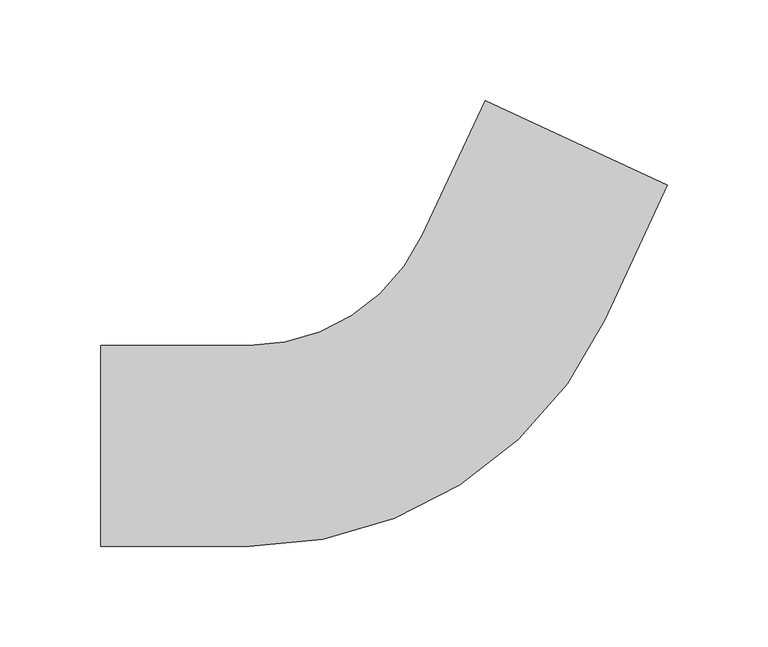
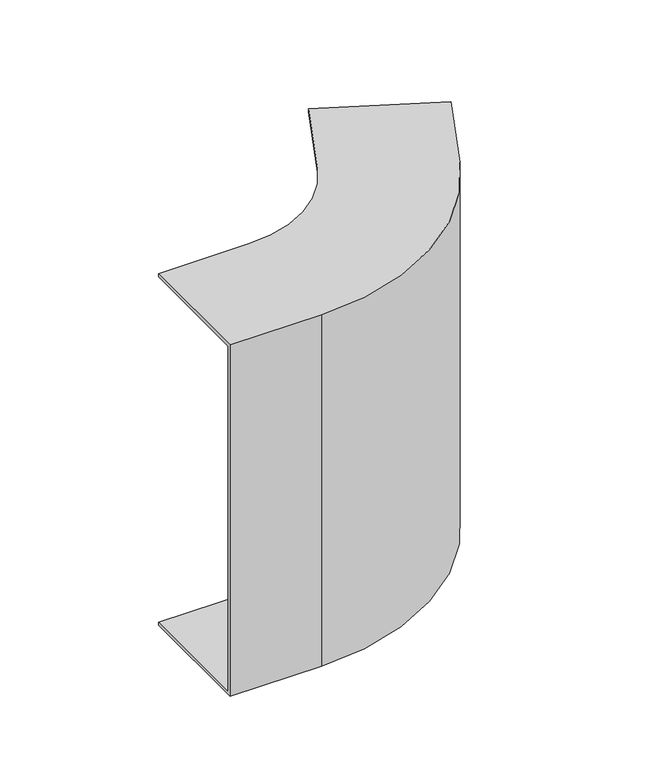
"""IFC4 building model written with IfcOpenShell, lengths in millimetres: cable carrier fitting geometry, BAKS_KK_Vertical bend EXTERNAL_LU : LUMNJ_H100."""

import ifcopenshell
import ifcopenshell.guid

model = None  # the IFC model being written
_history = None  # IfcOwnerHistory: only IFC2X3 demands one
_inside = {}  # id of a spatial element -> (the spatial element, [elements in it])
_under = {}  # id of a project, library or spatial element -> (it, [spatial elements below it])
_declared = {}  # id of a project -> (the project, [libraries it declares])
_typed = {}  # id of a type object -> (the type object, [elements of that type])
_made_of = {}  # id of a material, layer set ... -> (it, [elements and type objects made of it])


def new_model(schema):
    """Start an empty IFC model of exactly this schema.

    Asked for "IFC4X3", IfcOpenShell would pick the latest addendum, in which some entities
    have other attributes; the version numbers below select the first issue.
    IFC2X3 requires an IfcOwnerHistory on every rooted entity: one is made here for all.
    """
    global model, _history
    if schema == "IFC4X3":
        model = ifcopenshell.file(schema_version=(4, 3, 0, 0))
    else:
        model = ifcopenshell.file(schema=schema)
    _inside.clear()
    _under.clear()
    _declared.clear()
    _typed.clear()
    _made_of.clear()
    _history = None
    if model.schema == "IFC2X3":
        org = make("IfcOrganization", Name="unknown")
        user = make(
            "IfcPersonAndOrganization",
            ThePerson=make("IfcPerson", FamilyName="unknown"),
            TheOrganization=org,
        )
        app = make(
            "IfcApplication",
            ApplicationDeveloper=org,
            Version="unknown",
            ApplicationFullName="unknown",
            ApplicationIdentifier="unknown",
        )
        _history = make(
            "IfcOwnerHistory",
            OwningUser=user,
            OwningApplication=app,
            ChangeAction="ADDED",
            CreationDate=0,
        )
    return model


def make(cls, **values):
    """One entity of the class cls with the attributes given. An attribute that is None is left unset."""
    return model.create_entity(
        cls, **{name: value for name, value in values.items() if value is not None}
    )


def rooted(cls, **values):
    """An entity with a GlobalId (a new one), such as an element, a storey or a relation."""
    return make(cls, GlobalId=ifcopenshell.guid.new(), OwnerHistory=_history, **values)


def si_unit(unit_type, name, prefix=None):
    """IfcSIUnit, for example si_unit("LENGTHUNIT", "METRE", prefix="MILLI")."""
    return make("IfcSIUnit", UnitType=unit_type, Prefix=prefix, Name=name)


def assignment(units):
    """IfcUnitAssignment: the units of a project."""
    return None if units is None else make("IfcUnitAssignment", Units=units)


def point(xyz):
    """IfcCartesianPoint."""
    return None if xyz is None else make("IfcCartesianPoint", Coordinates=xyz)


def direction(xyz):
    """IfcDirection."""
    return None if xyz is None else make("IfcDirection", DirectionRatios=xyz)


def frame(location, z_axis=None, x_axis=None):
    """IfcAxis2Placement3D, a coordinate frame: its origin and axes. An axis left out is left unset."""
    return make(
        "IfcAxis2Placement3D",
        Location=point(location),
        Axis=direction(z_axis),
        RefDirection=direction(x_axis),
    )


def origin():
    """The frame at (0, 0, 0) with its axes left unset."""
    return frame((0.0, 0.0, 0.0))


def place(relative_to, where):
    """IfcLocalPlacement: puts the frame where relative to a parent placement (None: the world)."""
    return make(
        "IfcLocalPlacement", PlacementRelTo=relative_to, RelativePlacement=where
    )


def context(
    kind, dimensions, precision=None, world=None, true_north=None, identifier=None
):
    """IfcGeometricRepresentationContext, for example the 3D "Model" context."""
    return make(
        "IfcGeometricRepresentationContext",
        ContextIdentifier=identifier,
        ContextType=kind,
        CoordinateSpaceDimension=dimensions,
        Precision=precision,
        WorldCoordinateSystem=world,
        TrueNorth=true_north,
    )


def project(units=None, contexts=None):
    """IfcProject with its units and contexts."""
    return rooted(
        "IfcProject",
        Name="project",
        RepresentationContexts=contexts,
        UnitsInContext=assignment(units),
    )


def spatial(cls, under=None, at=None, **own):
    """A site, building, storey or space (cls), placed at a placement, below another one or the project."""
    s = rooted(cls, ObjectPlacement=at, **own)
    if under is not None:
        _under.setdefault(under.id(), (under, []))[1].append(s)
    return s


def polyline(points):
    """IfcPolyline through the points."""
    return make("IfcPolyline", Points=[point(p) for p in points])


def circle_curve(where, radius):
    """IfcCircle in the frame where."""
    return make("IfcCircle", Position=where, Radius=radius)


def shape(context_of_items, identifier, shape_type, items):
    """IfcShapeRepresentation: the items that make up one representation, for example the "Body"."""
    return make(
        "IfcShapeRepresentation",
        ContextOfItems=context_of_items,
        RepresentationIdentifier=identifier,
        RepresentationType=shape_type,
        Items=items,
    )


def source(mapping_origin, context_of_items, identifier, shape_type, items):
    """IfcRepresentationMap: a shape defined once, which mapped items show again and again."""
    return make(
        "IfcRepresentationMap",
        MappingOrigin=mapping_origin,
        MappedRepresentation=shape(context_of_items, identifier, shape_type, items),
    )


def transform(
    local_origin,
    x_axis=None,
    y_axis=None,
    z_axis=None,
    scale=None,
    scale2=None,
    scale3=None,
    uniform=True,
):
    """IfcCartesianTransformationOperator3D, or its non-uniform kind. x_axis, y_axis, z_axis: its Axis1, 2, 3."""
    if uniform:
        return make(
            "IfcCartesianTransformationOperator3D",
            Axis1=direction(x_axis),
            Axis2=direction(y_axis),
            LocalOrigin=point(local_origin),
            Scale=scale,
            Axis3=direction(z_axis),
        )
    return make(
        "IfcCartesianTransformationOperator3DnonUniform",
        Axis1=direction(x_axis),
        Axis2=direction(y_axis),
        LocalOrigin=point(local_origin),
        Scale=scale,
        Axis3=direction(z_axis),
        Scale2=scale2,
        Scale3=scale3,
    )


def mapped(mapping_source, mapping_target):
    """IfcMappedItem: shows the shape of a source again, moved by a transform."""
    return make(
        "IfcMappedItem", MappingSource=mapping_source, MappingTarget=mapping_target
    )


def made_of(thing, what):
    """Note that an element or type object is made of a material, layer set ...; save() writes the relation."""
    if what is not None:
        _made_of.setdefault(what.id(), (what, []))[1].append(thing)
    return thing


def element(
    cls,
    number,
    at=None,
    inside=None,
    cuts=None,
    type_object=None,
    material=None,
    context=None,
    identifier="Body",
    shape_type=None,
    held_by="IfcProductDefinitionShape",
    body=None,
    shapes=None,
    **own,
):
    """One element of the class cls, such as IfcWall. Its Tag is "e" and its number.

    at: its placement. inside: the storey or other place that contains it. cuts: it is an
    opening in that element (IfcRelVoidsElement). A single representation is given by context,
    identifier, shape_type and body (its items); several are given by shapes. held_by: the class
    of the entity that holds the representations. save() writes the other relations.
    """
    e = rooted(cls, Tag="e%d" % number, ObjectPlacement=at, **own)
    if body is not None:
        shapes = [shape(context, identifier, shape_type, body)]
    if shapes is not None:
        e.Representation = make(held_by, Representations=shapes)
    if inside is not None:
        _inside.setdefault(inside.id(), (inside, []))[1].append(e)
    if cuts is not None:
        rooted(
            "IfcRelVoidsElement", RelatingBuildingElement=cuts, RelatedOpeningElement=e
        )
    if type_object is not None:
        _typed.setdefault(type_object.id(), (type_object, []))[1].append(e)
    return made_of(e, material)


def aggregate(whole, parts):
    """IfcRelAggregates: a whole, such as a stair, and the parts it consists of."""
    return rooted("IfcRelAggregates", RelatingObject=whole, RelatedObjects=parts)


def save(model, path):
    """Write the relations noted so far, then the file.

    IfcRelAggregates (storeys below a building ...), IfcRelContainedInSpatialStructure (elements
    in a storey), IfcRelDefinesByType, IfcRelAssociatesMaterial and IfcRelDeclares: one each for
    every whole, place, type object, material and project.
    """
    for whole, parts in _under.values():
        aggregate(whole, parts)
    for where, things in _inside.values():
        rooted(
            "IfcRelContainedInSpatialStructure",
            RelatedElements=things,
            RelatingStructure=where,
        )
    for kind, things in _typed.values():
        rooted("IfcRelDefinesByType", RelatedObjects=things, RelatingType=kind)
    for what, things in _made_of.values():
        rooted("IfcRelAssociatesMaterial", RelatedObjects=things, RelatingMaterial=what)
    for by, libraries in _declared.values():
        rooted("IfcRelDeclares", RelatingContext=by, RelatedDefinitions=libraries)
    model.write(path)


def plane_surface(at):
    """IfcPlane: the flat surface through the origin of the frame at, square to its z axis."""
    return make("IfcPlane", Position=at)


def cylinder_surface(at, radius):
    """IfcCylindricalSurface: all points at the distance radius from the z axis of the frame at."""
    return make("IfcCylindricalSurface", Position=at, Radius=radius)


def revolved_surface(curve, axis_point, axis_direction):
    """IfcSurfaceOfRevolution: the curve turned about the line through axis_point along axis_direction."""
    return make(
        "IfcSurfaceOfRevolution",
        SweptCurve=make("IfcArbitraryOpenProfileDef", ProfileType="CURVE", Curve=curve),
        AxisPosition=make("IfcAxis1Placement", Location=point(axis_point), Axis=direction(axis_direction)),
    )


def advanced_brep(points, edges, surfaces, faces):
    """IfcAdvancedBrep: a solid bounded by faces that lie on surfaces and meet in shared edges.

    An edge is (start, end): straight between two places in points (the first is 0);
    or (start, end, curve); or (start, end, curve, False) where it runs against its curve.
    A face is (place in surfaces, loops), or (place, loops, False) where it looks against
    its surface's normal. A loop lists edges by number (the first is 1), with a minus sign
    where the edge is run from its end to its start. The first loop is the outer one.
    """
    corners = [point(p) for p in points]
    vertices = [make("IfcVertexPoint", VertexGeometry=c) for c in corners]
    made = []
    for start, end, *more in edges:
        made.append(
            make(
                "IfcEdgeCurve",
                EdgeStart=vertices[start],
                EdgeEnd=vertices[end],
                EdgeGeometry=more[0] if more else make("IfcPolyline", Points=[corners[start], corners[end]]),
                SameSense=more[1] if len(more) > 1 else True,
            )
        )
    hull = []
    for where, loops, *sense in faces:
        bounds = []
        for j, loop in enumerate(loops):
            ring = [make("IfcOrientedEdge", EdgeElement=made[abs(k) - 1], Orientation=k > 0) for k in loop]
            bounds.append(
                make(
                    "IfcFaceOuterBound" if j == 0 else "IfcFaceBound",
                    Bound=make("IfcEdgeLoop", EdgeList=ring),
                    Orientation=True,
                )
            )
        hull.append(make("IfcAdvancedFace", Bounds=bounds, FaceSurface=surfaces[where], SameSense=sense[0] if sense else True))
    return make("IfcAdvancedBrep", Outer=make("IfcClosedShell", CfsFaces=hull))


def cable_carrier_fitting_f50788b4(model_context):
    return source(origin(), model_context, "Body", "AdvancedBrep", [
        advanced_brep(
        [(-166.3751878, 50.0, 150.0), (-166.3751878, 50.0, 147.46), (-166.3751878, -47.46, 147.46), (-166.3751878, -47.46, -147.46), (-166.3751878, 50.0, -147.46), (-166.3751878, 50.0, -150.0), (-166.3751878, -50.0, -150.0), (-166.3751878, -50.0, 150.0), (24.9978033, 171.9180414, 150.0), (115.628582, 129.6562152, 150.0), (115.628582, 129.6562152, -150.0), (24.9978033, 171.9180414, -150.0), (24.9978033, 171.9180414, -147.46), (113.3265603, 130.7296656, -147.46), (113.3265603, 130.7296656, 147.46), (24.9978033, 171.9180414, 147.46), (-92.3751878, -50.0, 150.0), (84.3548307, 62.589439, 150.0), (-6.275948, 104.8512651, 150.0), (-92.3751878, 50.0, 150.0), (-92.3751878, -50.0, -150.0), (-92.3751878, 50.0, -150.0), (-6.275948, 104.8512651, -150.0), (84.3548307, 62.589439, -150.0), (-92.3751878, 50.0, -147.46), (-92.3751878, -47.46, -147.46), (82.0528089, 63.6628893, -147.46), (-6.275948, 104.8512651, -147.46), (-92.3751878, -47.46, 147.46), (-92.3751878, 50.0, 147.46), (-6.275948, 104.8512651, 147.46), (82.0528089, 63.6628893, 147.46)],
        [
            (0, 1),
            (1, 2),
            (2, 3),
            (3, 4),
            (4, 5),
            (5, 6),
            (6, 7),
            (7, 0),
            (8, 9),
            (9, 10),
            (10, 11),
            (11, 12),
            (12, 13),
            (13, 14),
            (14, 15),
            (15, 8),
            (7, 16),
            (16, 17, circle_curve(frame((-92.3751878, 145.0, 150.0), z_axis=(0.0, 0.0, 1.0), x_axis=(0.0, -1.0, 0.0)), 195.0)),
            (17, 9),
            (8, 18),
            (18, 19, circle_curve(frame((-92.3751878, 145.0, 150.0), z_axis=(0.0, 0.0, -1.0), x_axis=(0.0, -1.0, 0.0)), 95.0)),
            (19, 0),
            (6, 20),
            (20, 16),
            (5, 21),
            (21, 22, circle_curve(frame((-92.3751878, 145.0, -150.0), z_axis=(0.0, 0.0, 1.0), x_axis=(0.0, -1.0, 0.0)), 95.0)),
            (22, 11),
            (10, 23),
            (23, 20, circle_curve(frame((-92.3751878, 145.0, -150.0), z_axis=(0.0, 0.0, -1.0), x_axis=(0.0, -1.0, 0.0)), 195.0)),
            (4, 24),
            (24, 21),
            (3, 25),
            (25, 26, circle_curve(frame((-92.3751878, 145.0, -147.46), z_axis=(0.0, 0.0, 1.0), x_axis=(0.0, -1.0, 0.0)), 192.46)),
            (26, 13),
            (12, 27),
            (27, 24, circle_curve(frame((-92.3751878, 145.0, -147.46), z_axis=(0.0, 0.0, -1.0), x_axis=(0.0, -1.0, 0.0)), 95.0)),
            (2, 28),
            (28, 25),
            (1, 29),
            (29, 30, circle_curve(frame((-92.3751878, 145.0, 147.46), z_axis=(0.0, 0.0, 1.0), x_axis=(0.0, -1.0, 0.0)), 95.0)),
            (30, 15),
            (14, 31),
            (31, 28, circle_curve(frame((-92.3751878, 145.0, 147.46), z_axis=(0.0, 0.0, -1.0), x_axis=(0.0, -1.0, 0.0)), 192.46)),
            (19, 29),
            (23, 17),
            (27, 22),
            (31, 26),
            (18, 30),
        ],
        [
            plane_surface(frame((-166.3751878, 0.0, 0.0), z_axis=(-1.0, 0.0, 0.0), x_axis=(0.0, 0.0, 1.0))),
            plane_surface(frame((70.3131927, 150.7871283, 0.0), z_axis=(0.42261826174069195, 0.9063077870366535, 0.0), x_axis=(0.0, 0.0, 1.0))),
            plane_surface(frame((-166.3751878, -50.0, 150.0), z_axis=(0.0, 0.0, 1.0), x_axis=(1.0, 0.0, 0.0))),
            plane_surface(frame((-166.3751878, -50.0, -150.0), z_axis=(0.0, -1.0, 0.0), x_axis=(1.0, 0.0, 0.0))),
            plane_surface(frame((-166.3751878, 50.0, -150.0), z_axis=(0.0, 0.0, -1.0), x_axis=(1.0, 0.0, 0.0))),
            plane_surface(frame((-166.3751878, 50.0, -147.46), z_axis=(0.0, 1.0, 0.0), x_axis=(1.0, 0.0, 0.0))),
            plane_surface(frame((-166.3751878, -47.46, -147.46), z_axis=(0.0, 0.0, 1.0), x_axis=(1.0, 0.0, 0.0))),
            plane_surface(frame((-166.3751878, -47.46, 147.46), z_axis=(0.0, 1.0, 0.0), x_axis=(1.0, 0.0, 0.0))),
            plane_surface(frame((-166.3751878, 50.0, 147.46), z_axis=(0.0, 0.0, -1.0), x_axis=(1.0, 0.0, 0.0))),
            plane_surface(frame((-166.3751878, 50.0, 150.0), z_axis=(0.0, 1.0, 0.0), x_axis=(1.0, 0.0, 0.0))),
            cylinder_surface(frame((-92.3751878, 145.0, 0.0), z_axis=(0.0, 0.0, 1.0), x_axis=(0.0, -1.0, 0.0)), 195.0),
            revolved_surface(polyline([(-92.3751878, 50.0, -147.46), (-92.3751878, 50.0, -150.0)]), (-92.3751878, 145.0, 0.0), (0.0, 0.0, 1.0)),
            revolved_surface(polyline([(-92.3751878, -47.46000000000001, 147.46), (-92.3751878, -47.46000000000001, -147.46)]), (-92.3751878, 145.0, 0.0), (0.0, 0.0, 1.0)),
            revolved_surface(polyline([(-92.3751878, 50.0, 150.0), (-92.3751878, 50.0, 147.46)]), (-92.3751878, 145.0, 0.0), (0.0, 0.0, 1.0)),
            plane_surface(frame((84.3548307, 62.589439, -150.0), z_axis=(0.9063077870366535, -0.4226182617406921, 0.0), x_axis=(0.4226182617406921, 0.9063077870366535, 0.0))),
            plane_surface(frame((-6.275948, 104.8512651, -147.46), z_axis=(-0.9063077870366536, 0.4226182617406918, 0.0), x_axis=(0.4226182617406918, 0.9063077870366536, 0.0))),
            plane_surface(frame((82.0528089, 63.6628893, 147.46), z_axis=(-0.9063077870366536, 0.4226182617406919, 0.0), x_axis=(0.4226182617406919, 0.9063077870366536, 0.0))),
            plane_surface(frame((-6.275948, 104.8512651, 150.0), z_axis=(-0.9063077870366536, 0.4226182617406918, 0.0), x_axis=(0.4226182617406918, 0.9063077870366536, 0.0))),
        ],
        [
            (0, [[1, 2, 3, 4, 5, 6, 7, 8]]),
            (1, [[9, 10, 11, 12, 13, 14, 15, 16]]),
            (2, [[-8, 17, 18, 19, -9, 20, 21, 22]]),
            (3, [[-7, 23, 24, -17]]),
            (4, [[-6, 25, 26, 27, -11, 28, 29, -23]]),
            (5, [[-5, 30, 31, -25]]),
            (6, [[-4, 32, 33, 34, -13, 35, 36, -30]]),
            (7, [[-3, 37, 38, -32]]),
            (8, [[-2, 39, 40, 41, -15, 42, 43, -37]]),
            (9, [[-1, -22, 44, -39]]),
            (10, [[-18, -24, -29, 45]]),
            (11, [[-26, -31, -36, 46]]),
            (12, [[-33, -38, -43, 47]]),
            (13, [[-40, -44, -21, 48]]),
            (14, [[-45, -28, -10, -19]]),
            (15, [[-46, -35, -12, -27]]),
            (16, [[-47, -42, -14, -34]]),
            (17, [[-48, -20, -16, -41]]),
        ],
    ),
    ])


if __name__ == "__main__":
    model = new_model("IFC4")
    model_context = context("Model", 3, world=origin())
    ifc_project = project(units=[si_unit("LENGTHUNIT", "METRE", prefix="MILLI")], contexts=[model_context])
    site = spatial("IfcSite", under=ifc_project)
    building = spatial("IfcBuilding", under=site)
    placement = place(None, origin())
    cable_carrier_fitting_shape = cable_carrier_fitting_f50788b4(model_context)
    element("IfcCableCarrierFitting", 1, ObjectType="BAKS_KK_Vertical bend EXTERNAL_LU : LUMNJ_H100", at=placement, inside=building, context=model_context, shape_type="MappedRepresentation", body=[
        mapped(cable_carrier_fitting_shape, transform((0.0, 0.0, 0.0), x_axis=(1.0, 0.0, 0.0), y_axis=(0.0, 1.0, 0.0), z_axis=(0.0, 0.0, 1.0))),
    ])
    save(model, "model.ifc")
